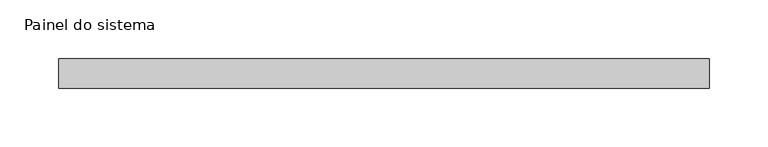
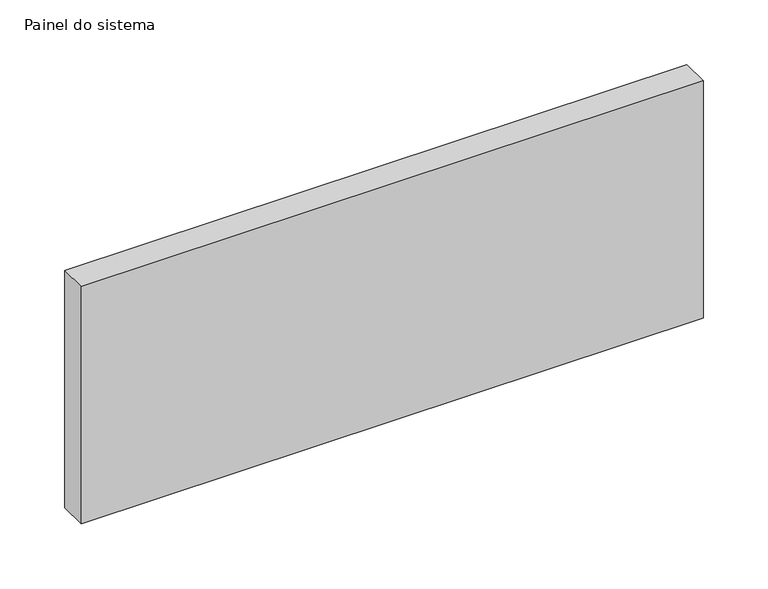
"""IFC4 building model written with IfcOpenShell, lengths in millimetres: plate geometry, Painel do sistema : Envidraçado."""

from ifc_helpers import new_model, si_unit, origin, origin_with_axes, place, context, project, spatial, polyline, outline, extrude, source, transform, mapped, element, save


def painel_do_sistema_f173221e(model_context):
    return source(origin(), model_context, "Body", "SweptSolid", [
        extrude(outline(polyline([(277.0833333, 24.5), (-277.0833333, 24.5), (-277.0833333, 49.5), (277.0833333, 49.5), (277.0833333, 24.5)])), origin_with_axes(), (0.0, 0.0, 1.0), 223.6217085),
    ])


if __name__ == "__main__":
    model = new_model("IFC4")
    model_context = context("Model", 3, world=origin())
    ifc_project = project(units=[si_unit("LENGTHUNIT", "METRE", prefix="MILLI")], contexts=[model_context])
    site = spatial("IfcSite", under=ifc_project)
    building = spatial("IfcBuilding", under=site)
    placement = place(None, origin())
    painel_do_sistema_shape = painel_do_sistema_f173221e(model_context)
    element("IfcPlate", 1, ObjectType="Painel do sistema : Envidraçado", at=placement, inside=building, context=model_context, shape_type="MappedRepresentation", body=[
        mapped(painel_do_sistema_shape, transform((0.0, 0.0, 0.0), x_axis=(1.0, 0.0, 0.0), y_axis=(0.0, 1.0, 0.0), z_axis=(0.0, 0.0, 1.0))),
    ])
    save(model, "model.ifc")
